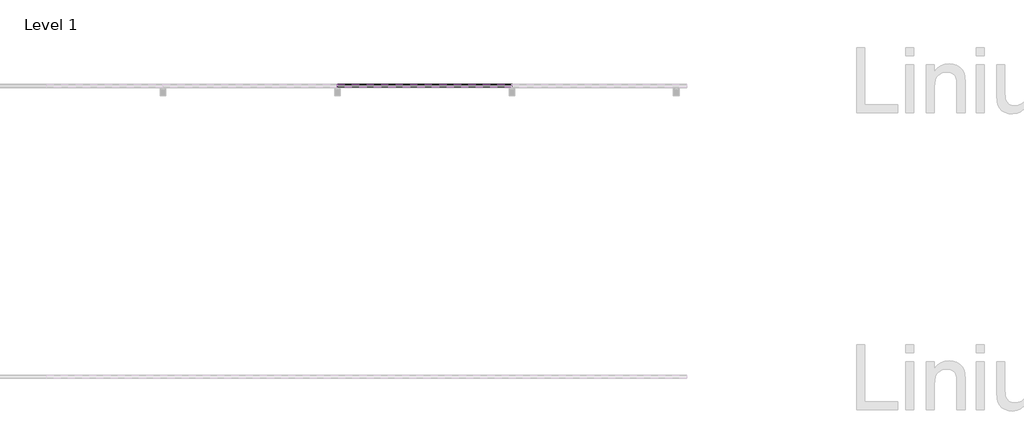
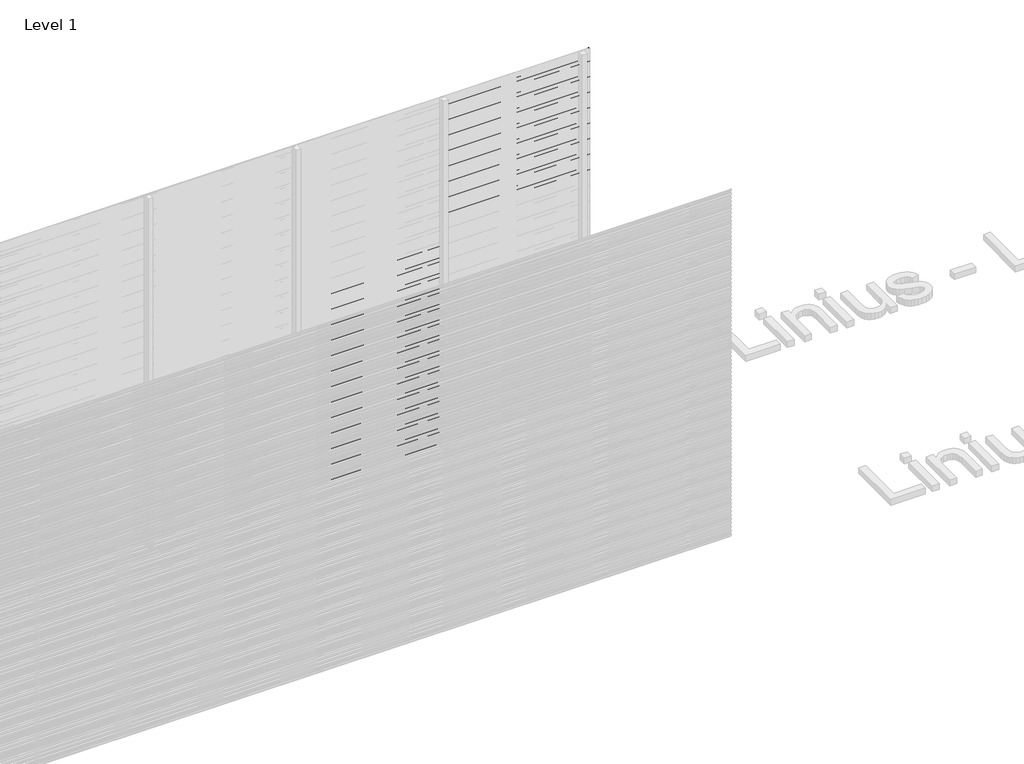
# One storey, part 60 of 507: 84 proxies.
"""IFC4 building model written with IfcOpenShell, lengths in millimetres."""

import ifcopenshell
import ifcopenshell.guid

model = None  # the IFC model being written
_history = None  # IfcOwnerHistory: only IFC2X3 demands one
_inside = {}  # id of a spatial element -> (the spatial element, [elements in it])
_under = {}  # id of a project, library or spatial element -> (it, [spatial elements below it])
_declared = {}  # id of a project -> (the project, [libraries it declares])
_typed = {}  # id of a type object -> (the type object, [elements of that type])
_made_of = {}  # id of a material, layer set ... -> (it, [elements and type objects made of it])


def new_model(schema):
    """Start an empty IFC model of exactly this schema.

    Asked for "IFC4X3", IfcOpenShell would pick the latest addendum, in which some entities
    have other attributes; the version numbers below select the first issue.
    IFC2X3 requires an IfcOwnerHistory on every rooted entity: one is made here for all.
    """
    global model, _history
    if schema == "IFC4X3":
        model = ifcopenshell.file(schema_version=(4, 3, 0, 0))
    else:
        model = ifcopenshell.file(schema=schema)
    _inside.clear()
    _under.clear()
    _declared.clear()
    _typed.clear()
    _made_of.clear()
    _history = None
    if model.schema == "IFC2X3":
        org = make("IfcOrganization", Name="unknown")
        user = make(
            "IfcPersonAndOrganization",
            ThePerson=make("IfcPerson", FamilyName="unknown"),
            TheOrganization=org,
        )
        app = make(
            "IfcApplication",
            ApplicationDeveloper=org,
            Version="unknown",
            ApplicationFullName="unknown",
            ApplicationIdentifier="unknown",
        )
        _history = make(
            "IfcOwnerHistory",
            OwningUser=user,
            OwningApplication=app,
            ChangeAction="ADDED",
            CreationDate=0,
        )
    return model


def make(cls, **values):
    """One entity of the class cls with the attributes given. An attribute that is None is left unset."""
    return model.create_entity(
        cls, **{name: value for name, value in values.items() if value is not None}
    )


def rooted(cls, **values):
    """An entity with a GlobalId (a new one), such as an element, a storey or a relation."""
    return make(cls, GlobalId=ifcopenshell.guid.new(), OwnerHistory=_history, **values)


def si_unit(unit_type, name, prefix=None):
    """IfcSIUnit, for example si_unit("LENGTHUNIT", "METRE", prefix="MILLI")."""
    return make("IfcSIUnit", UnitType=unit_type, Prefix=prefix, Name=name)


def assignment(units):
    """IfcUnitAssignment: the units of a project."""
    return None if units is None else make("IfcUnitAssignment", Units=units)


def point(xyz):
    """IfcCartesianPoint."""
    return None if xyz is None else make("IfcCartesianPoint", Coordinates=xyz)


def direction(xyz):
    """IfcDirection."""
    return None if xyz is None else make("IfcDirection", DirectionRatios=xyz)


def frame(location, z_axis=None, x_axis=None):
    """IfcAxis2Placement3D, a coordinate frame: its origin and axes. An axis left out is left unset."""
    return make(
        "IfcAxis2Placement3D",
        Location=point(location),
        Axis=direction(z_axis),
        RefDirection=direction(x_axis),
    )


def origin():
    """The frame at (0, 0, 0) with its axes left unset."""
    return frame((0.0, 0.0, 0.0))


def place(relative_to, where):
    """IfcLocalPlacement: puts the frame where relative to a parent placement (None: the world)."""
    return make(
        "IfcLocalPlacement", PlacementRelTo=relative_to, RelativePlacement=where
    )


def context(
    kind, dimensions, precision=None, world=None, true_north=None, identifier=None
):
    """IfcGeometricRepresentationContext, for example the 3D "Model" context."""
    return make(
        "IfcGeometricRepresentationContext",
        ContextIdentifier=identifier,
        ContextType=kind,
        CoordinateSpaceDimension=dimensions,
        Precision=precision,
        WorldCoordinateSystem=world,
        TrueNorth=true_north,
    )


def project(units=None, contexts=None):
    """IfcProject with its units and contexts."""
    return rooted(
        "IfcProject",
        Name="project",
        RepresentationContexts=contexts,
        UnitsInContext=assignment(units),
    )


def spatial(cls, under=None, at=None, **own):
    """A site, building, storey or space (cls), placed at a placement, below another one or the project."""
    s = rooted(cls, ObjectPlacement=at, **own)
    if under is not None:
        _under.setdefault(under.id(), (under, []))[1].append(s)
    return s


def polyline(points):
    """IfcPolyline through the points."""
    return make("IfcPolyline", Points=[point(p) for p in points])


def outline(outer, holes=None, kind="AREA"):
    """IfcArbitraryClosedProfileDef: a profile drawn as a closed curve; with holes, ...WithVoids."""
    if holes is None:
        return make("IfcArbitraryClosedProfileDef", ProfileType=kind, OuterCurve=outer)
    return make(
        "IfcArbitraryProfileDefWithVoids",
        ProfileType=kind,
        OuterCurve=outer,
        InnerCurves=holes,
    )


def extrude(swept, where, along, depth):
    """IfcExtrudedAreaSolid: the profile swept, set in the frame where, extruded along a direction by depth."""
    return make(
        "IfcExtrudedAreaSolid",
        SweptArea=swept,
        Position=where,
        ExtrudedDirection=direction(along),
        Depth=depth,
    )


def shape(context_of_items, identifier, shape_type, items):
    """IfcShapeRepresentation: the items that make up one representation, for example the "Body"."""
    return make(
        "IfcShapeRepresentation",
        ContextOfItems=context_of_items,
        RepresentationIdentifier=identifier,
        RepresentationType=shape_type,
        Items=items,
    )


def made_of(thing, what):
    """Note that an element or type object is made of a material, layer set ...; save() writes the relation."""
    if what is not None:
        _made_of.setdefault(what.id(), (what, []))[1].append(thing)
    return thing


def element(
    cls,
    number,
    at=None,
    inside=None,
    cuts=None,
    type_object=None,
    material=None,
    context=None,
    identifier="Body",
    shape_type=None,
    held_by="IfcProductDefinitionShape",
    body=None,
    shapes=None,
    **own,
):
    """One element of the class cls, such as IfcWall. Its Tag is "e" and its number.

    at: its placement. inside: the storey or other place that contains it. cuts: it is an
    opening in that element (IfcRelVoidsElement). A single representation is given by context,
    identifier, shape_type and body (its items); several are given by shapes. held_by: the class
    of the entity that holds the representations. save() writes the other relations.
    """
    e = rooted(cls, Tag="e%d" % number, ObjectPlacement=at, **own)
    if body is not None:
        shapes = [shape(context, identifier, shape_type, body)]
    if shapes is not None:
        e.Representation = make(held_by, Representations=shapes)
    if inside is not None:
        _inside.setdefault(inside.id(), (inside, []))[1].append(e)
    if cuts is not None:
        rooted(
            "IfcRelVoidsElement", RelatingBuildingElement=cuts, RelatedOpeningElement=e
        )
    if type_object is not None:
        _typed.setdefault(type_object.id(), (type_object, []))[1].append(e)
    return made_of(e, material)


def aggregate(whole, parts):
    """IfcRelAggregates: a whole, such as a stair, and the parts it consists of."""
    return rooted("IfcRelAggregates", RelatingObject=whole, RelatedObjects=parts)


def save(model, path):
    """Write the relations noted so far, then the file.

    IfcRelAggregates (storeys below a building ...), IfcRelContainedInSpatialStructure (elements
    in a storey), IfcRelDefinesByType, IfcRelAssociatesMaterial and IfcRelDeclares: one each for
    every whole, place, type object, material and project.
    """
    for whole, parts in _under.values():
        aggregate(whole, parts)
    for where, things in _inside.values():
        rooted(
            "IfcRelContainedInSpatialStructure",
            RelatedElements=things,
            RelatingStructure=where,
        )
    for kind, things in _typed.values():
        rooted("IfcRelDefinesByType", RelatedObjects=things, RelatingType=kind)
    for what, things in _made_of.values():
        rooted("IfcRelAssociatesMaterial", RelatedObjects=things, RelatingMaterial=what)
    for by, libraries in _declared.values():
        rooted("IfcRelDeclares", RelatingContext=by, RelatedDefinitions=libraries)
    model.write(path)


model = new_model("IFC4")

# Units and contexts
model_context = context("Model", 3, world=origin())
ifc_project = project(units=[si_unit("LENGTHUNIT", "METRE", prefix="MILLI")], contexts=[model_context])

# Site, building, storey
site = spatial("IfcSite", under=ifc_project)
building = spatial("IfcBuilding", under=site)
storey = spatial("IfcBuildingStorey", under=building, Name="Level 1", Elevation=0.0)

# Proxies
placement = place(None, origin())
element("IfcBuildingElementProxy", 1, Name="Wall Sweeps", at=placement, inside=storey, context=model_context, shape_type="SweptSolid", body=[
    extrude(outline(polyline([(36503.4540136, 1707.6), (36503.4540136, 1694.1), (36502.2040136, 1694.8216933), (36502.2040136, 1706.8782281), (36483.0540136, 1717.9345698), (36483.0540136, 1731.6), (36484.3040136, 1731.6), (36484.3040136, 1718.6562577), (36503.4540136, 1707.6)])), frame((48566.6208096, 0.0, 0.0), z_axis=(1.0, 0.0, 0.0), x_axis=(0.0, 1.0, 0.0)), (0.0, 0.0, 1.0), 1199.9999999),
])
element("IfcBuildingElementProxy", 2, Name="Wall Sweeps", at=placement, inside=storey, context=model_context, shape_type="SweptSolid", body=[
    extrude(outline(polyline([(36503.4540136, 1674.3), (36503.4540136, 1660.8), (36502.2040136, 1661.5216933), (36502.2040136, 1673.5782281), (36483.0540136, 1684.6345698), (36483.0540136, 1698.3), (36484.3040136, 1698.3), (36484.3040136, 1685.3562577), (36503.4540136, 1674.3)])), frame((48566.6208096, 0.0, 0.0), z_axis=(1.0, 0.0, 0.0), x_axis=(0.0, 1.0, 0.0)), (0.0, 0.0, 1.0), 1199.9999999),
])
element("IfcBuildingElementProxy", 3, Name="Wall Sweeps", at=placement, inside=storey, context=model_context, shape_type="SweptSolid", body=[
    extrude(outline(polyline([(36503.4540136, 1641.0), (36503.4540136, 1627.5), (36502.2040136, 1628.2216933), (36502.2040136, 1640.2782281), (36483.0540136, 1651.3345698), (36483.0540136, 1665.0), (36484.3040136, 1665.0), (36484.3040136, 1652.0562577), (36503.4540136, 1641.0)])), frame((48566.6208096, 0.0, 0.0), z_axis=(1.0, 0.0, 0.0), x_axis=(0.0, 1.0, 0.0)), (0.0, 0.0, 1.0), 1199.9999999),
])
element("IfcBuildingElementProxy", 4, Name="Wall Sweeps", at=placement, inside=storey, context=model_context, shape_type="SweptSolid", body=[
    extrude(outline(polyline([(36503.4540136, 1607.7), (36503.4540136, 1594.2), (36502.2040136, 1594.9216933), (36502.2040136, 1606.9782281), (36483.0540136, 1618.0345698), (36483.0540136, 1631.7), (36484.3040136, 1631.7), (36484.3040136, 1618.7562577), (36503.4540136, 1607.7)])), frame((48566.6208096, 0.0, 0.0), z_axis=(1.0, 0.0, 0.0), x_axis=(0.0, 1.0, 0.0)), (0.0, 0.0, 1.0), 1199.9999999),
])
element("IfcBuildingElementProxy", 5, Name="Wall Sweeps", at=placement, inside=storey, context=model_context, shape_type="SweptSolid", body=[
    extrude(outline(polyline([(36503.4540136, 1574.4), (36503.4540136, 1560.9), (36502.2040136, 1561.6216933), (36502.2040136, 1573.6782281), (36483.0540136, 1584.7345698), (36483.0540136, 1598.4), (36484.3040136, 1598.4), (36484.3040136, 1585.4562577), (36503.4540136, 1574.4)])), frame((48566.6208096, 0.0, 0.0), z_axis=(1.0, 0.0, 0.0), x_axis=(0.0, 1.0, 0.0)), (0.0, 0.0, 1.0), 1199.9999999),
])
element("IfcBuildingElementProxy", 6, Name="Wall Sweeps", at=placement, inside=storey, context=model_context, shape_type="SweptSolid", body=[
    extrude(outline(polyline([(36503.4540136, 1541.1), (36503.4540136, 1527.6), (36502.2040136, 1528.3216933), (36502.2040136, 1540.3782281), (36483.0540136, 1551.4345698), (36483.0540136, 1565.1), (36484.3040136, 1565.1), (36484.3040136, 1552.1562577), (36503.4540136, 1541.1)])), frame((48566.6208096, 0.0, 0.0), z_axis=(1.0, 0.0, 0.0), x_axis=(0.0, 1.0, 0.0)), (0.0, 0.0, 1.0), 1199.9999999),
])
element("IfcBuildingElementProxy", 7, Name="Wall Sweeps", at=placement, inside=storey, context=model_context, shape_type="SweptSolid", body=[
    extrude(outline(polyline([(36503.4540136, 1507.8), (36503.4540136, 1494.3), (36502.2040136, 1495.0216933), (36502.2040136, 1507.0782281), (36483.0540136, 1518.1345698), (36483.0540136, 1531.8), (36484.3040136, 1531.8), (36484.3040136, 1518.8562577), (36503.4540136, 1507.8)])), frame((48566.6208096, 0.0, 0.0), z_axis=(1.0, 0.0, 0.0), x_axis=(0.0, 1.0, 0.0)), (0.0, 0.0, 1.0), 1199.9999999),
])
element("IfcBuildingElementProxy", 8, Name="Wall Sweeps", at=placement, inside=storey, context=model_context, shape_type="SweptSolid", body=[
    extrude(outline(polyline([(36503.4540136, 1474.5), (36503.4540136, 1461.0), (36502.2040136, 1461.7216933), (36502.2040136, 1473.7782281), (36483.0540136, 1484.8345698), (36483.0540136, 1498.5), (36484.3040136, 1498.5), (36484.3040136, 1485.5562577), (36503.4540136, 1474.5)])), frame((48566.6208096, 0.0, 0.0), z_axis=(1.0, 0.0, 0.0), x_axis=(0.0, 1.0, 0.0)), (0.0, 0.0, 1.0), 1199.9999999),
])
element("IfcBuildingElementProxy", 9, Name="Wall Sweeps", at=placement, inside=storey, context=model_context, shape_type="SweptSolid", body=[
    extrude(outline(polyline([(36503.4540136, 1441.2), (36503.4540136, 1427.7), (36502.2040136, 1428.4216933), (36502.2040136, 1440.4782281), (36483.0540136, 1451.5345698), (36483.0540136, 1465.2), (36484.3040136, 1465.2), (36484.3040136, 1452.2562577), (36503.4540136, 1441.2)])), frame((48566.6208096, 0.0, 0.0), z_axis=(1.0, 0.0, 0.0), x_axis=(0.0, 1.0, 0.0)), (0.0, 0.0, 1.0), 1199.9999999),
])
element("IfcBuildingElementProxy", 10, Name="Wall Sweeps", at=placement, inside=storey, context=model_context, shape_type="SweptSolid", body=[
    extrude(outline(polyline([(36503.4540136, 1407.9), (36503.4540136, 1394.4), (36502.2040136, 1395.1216933), (36502.2040136, 1407.1782281), (36483.0540136, 1418.2345698), (36483.0540136, 1431.9), (36484.3040136, 1431.9), (36484.3040136, 1418.9562577), (36503.4540136, 1407.9)])), frame((48566.6208096, 0.0, 0.0), z_axis=(1.0, 0.0, 0.0), x_axis=(0.0, 1.0, 0.0)), (0.0, 0.0, 1.0), 1199.9999999),
])
element("IfcBuildingElementProxy", 11, Name="Wall Sweeps", at=placement, inside=storey, context=model_context, shape_type="SweptSolid", body=[
    extrude(outline(polyline([(36503.4540136, 1374.6), (36503.4540136, 1361.1), (36502.2040136, 1361.8216933), (36502.2040136, 1373.8782281), (36483.0540136, 1384.9345698), (36483.0540136, 1398.6), (36484.3040136, 1398.6), (36484.3040136, 1385.6562577), (36503.4540136, 1374.6)])), frame((48566.6208096, 0.0, 0.0), z_axis=(1.0, 0.0, 0.0), x_axis=(0.0, 1.0, 0.0)), (0.0, 0.0, 1.0), 1199.9999999),
])
element("IfcBuildingElementProxy", 12, Name="Wall Sweeps", at=placement, inside=storey, context=model_context, shape_type="SweptSolid", body=[
    extrude(outline(polyline([(36503.4540136, 1341.3), (36503.4540136, 1327.8), (36502.2040136, 1328.5216933), (36502.2040136, 1340.5782281), (36483.0540136, 1351.6345698), (36483.0540136, 1365.3), (36484.3040136, 1365.3), (36484.3040136, 1352.3562577), (36503.4540136, 1341.3)])), frame((48566.6208096, 0.0, 0.0), z_axis=(1.0, 0.0, 0.0), x_axis=(0.0, 1.0, 0.0)), (0.0, 0.0, 1.0), 1199.9999999),
])
element("IfcBuildingElementProxy", 13, Name="Wall Sweeps", at=placement, inside=storey, context=model_context, shape_type="SweptSolid", body=[
    extrude(outline(polyline([(36503.4540136, 1308.0), (36503.4540136, 1294.5), (36502.2040136, 1295.2216933), (36502.2040136, 1307.2782281), (36483.0540136, 1318.3345698), (36483.0540136, 1332.0), (36484.3040136, 1332.0), (36484.3040136, 1319.0562577), (36503.4540136, 1308.0)])), frame((48566.6208096, 0.0, 0.0), z_axis=(1.0, 0.0, 0.0), x_axis=(0.0, 1.0, 0.0)), (0.0, 0.0, 1.0), 1199.9999999),
])
element("IfcBuildingElementProxy", 14, Name="Wall Sweeps", at=placement, inside=storey, context=model_context, shape_type="SweptSolid", body=[
    extrude(outline(polyline([(36503.4540136, 1274.7), (36503.4540136, 1261.2), (36502.2040136, 1261.9216933), (36502.2040136, 1273.9782281), (36483.0540136, 1285.0345698), (36483.0540136, 1298.7), (36484.3040136, 1298.7), (36484.3040136, 1285.7562577), (36503.4540136, 1274.7)])), frame((48566.6208096, 0.0, 0.0), z_axis=(1.0, 0.0, 0.0), x_axis=(0.0, 1.0, 0.0)), (0.0, 0.0, 1.0), 1199.9999999),
])
element("IfcBuildingElementProxy", 15, Name="Wall Sweeps", at=placement, inside=storey, context=model_context, shape_type="SweptSolid", body=[
    extrude(outline(polyline([(36503.4540136, 1241.4), (36503.4540136, 1227.9), (36502.2040136, 1228.6216933), (36502.2040136, 1240.6782281), (36483.0540136, 1251.7345698), (36483.0540136, 1265.4), (36484.3040136, 1265.4), (36484.3040136, 1252.4562577), (36503.4540136, 1241.4)])), frame((48566.6208096, 0.0, 0.0), z_axis=(1.0, 0.0, 0.0), x_axis=(0.0, 1.0, 0.0)), (0.0, 0.0, 1.0), 1199.9999999),
])
element("IfcBuildingElementProxy", 16, Name="Wall Sweeps", at=placement, inside=storey, context=model_context, shape_type="SweptSolid", body=[
    extrude(outline(polyline([(36503.4540136, 1208.1), (36503.4540136, 1194.6), (36502.2040136, 1195.3216933), (36502.2040136, 1207.3782281), (36483.0540136, 1218.4345698), (36483.0540136, 1232.1), (36484.3040136, 1232.1), (36484.3040136, 1219.1562577), (36503.4540136, 1208.1)])), frame((48566.6208096, 0.0, 0.0), z_axis=(1.0, 0.0, 0.0), x_axis=(0.0, 1.0, 0.0)), (0.0, 0.0, 1.0), 1199.9999999),
])
element("IfcBuildingElementProxy", 17, Name="Wall Sweeps", at=placement, inside=storey, context=model_context, shape_type="SweptSolid", body=[
    extrude(outline(polyline([(36503.4540136, 1174.8), (36503.4540136, 1161.3), (36502.2040136, 1162.0216933), (36502.2040136, 1174.0782281), (36483.0540136, 1185.1345698), (36483.0540136, 1198.8), (36484.3040136, 1198.8), (36484.3040136, 1185.8562577), (36503.4540136, 1174.8)])), frame((48566.6208096, 0.0, 0.0), z_axis=(1.0, 0.0, 0.0), x_axis=(0.0, 1.0, 0.0)), (0.0, 0.0, 1.0), 1199.9999999),
])
element("IfcBuildingElementProxy", 18, Name="Wall Sweeps", at=placement, inside=storey, context=model_context, shape_type="SweptSolid", body=[
    extrude(outline(polyline([(36503.4540136, 1141.5), (36503.4540136, 1128.0), (36502.2040136, 1128.7216933), (36502.2040136, 1140.7782281), (36483.0540136, 1151.8345698), (36483.0540136, 1165.5), (36484.3040136, 1165.5), (36484.3040136, 1152.5562577), (36503.4540136, 1141.5)])), frame((48566.6208096, 0.0, 0.0), z_axis=(1.0, 0.0, 0.0), x_axis=(0.0, 1.0, 0.0)), (0.0, 0.0, 1.0), 1199.9999999),
])
element("IfcBuildingElementProxy", 19, Name="Wall Sweeps", at=placement, inside=storey, context=model_context, shape_type="SweptSolid", body=[
    extrude(outline(polyline([(36503.4540136, 1108.2), (36503.4540136, 1094.7), (36502.2040136, 1095.4216933), (36502.2040136, 1107.4782281), (36483.0540136, 1118.5345698), (36483.0540136, 1132.2), (36484.3040136, 1132.2), (36484.3040136, 1119.2562577), (36503.4540136, 1108.2)])), frame((48566.6208096, 0.0, 0.0), z_axis=(1.0, 0.0, 0.0), x_axis=(0.0, 1.0, 0.0)), (0.0, 0.0, 1.0), 1199.9999999),
])
element("IfcBuildingElementProxy", 20, Name="Wall Sweeps", at=placement, inside=storey, context=model_context, shape_type="SweptSolid", body=[
    extrude(outline(polyline([(36503.4540136, 1074.9), (36503.4540136, 1061.4), (36502.2040136, 1062.1216933), (36502.2040136, 1074.1782281), (36483.0540136, 1085.2345698), (36483.0540136, 1098.9), (36484.3040136, 1098.9), (36484.3040136, 1085.9562577), (36503.4540136, 1074.9)])), frame((48566.6208096, 0.0, 0.0), z_axis=(1.0, 0.0, 0.0), x_axis=(0.0, 1.0, 0.0)), (0.0, 0.0, 1.0), 1199.9999999),
])
element("IfcBuildingElementProxy", 21, Name="Wall Sweeps", at=placement, inside=storey, context=model_context, shape_type="SweptSolid", body=[
    extrude(outline(polyline([(36503.4540136, 1041.6), (36503.4540136, 1028.1), (36502.2040136, 1028.8216933), (36502.2040136, 1040.8782281), (36483.0540136, 1051.9345698), (36483.0540136, 1065.6), (36484.3040136, 1065.6), (36484.3040136, 1052.6562577), (36503.4540136, 1041.6)])), frame((48566.6208096, 0.0, 0.0), z_axis=(1.0, 0.0, 0.0), x_axis=(0.0, 1.0, 0.0)), (0.0, 0.0, 1.0), 1199.9999999),
])
element("IfcBuildingElementProxy", 22, Name="Wall Sweeps", at=placement, inside=storey, context=model_context, shape_type="SweptSolid", body=[
    extrude(outline(polyline([(36503.4540136, 1008.3), (36503.4540136, 994.8), (36502.2040136, 995.5216933), (36502.2040136, 1007.5782281), (36483.0540136, 1018.6345698), (36483.0540136, 1032.3), (36484.3040136, 1032.3), (36484.3040136, 1019.3562577), (36503.4540136, 1008.3)])), frame((48566.6208096, 0.0, 0.0), z_axis=(1.0, 0.0, 0.0), x_axis=(0.0, 1.0, 0.0)), (0.0, 0.0, 1.0), 1199.9999999),
])
element("IfcBuildingElementProxy", 23, Name="Wall Sweeps", at=placement, inside=storey, context=model_context, shape_type="SweptSolid", body=[
    extrude(outline(polyline([(36503.4540136, 975.0), (36503.4540136, 961.5), (36502.2040136, 962.2216933), (36502.2040136, 974.2782281), (36483.0540136, 985.3345698), (36483.0540136, 999.0), (36484.3040136, 999.0), (36484.3040136, 986.0562577), (36503.4540136, 975.0)])), frame((48566.6208096, 0.0, 0.0), z_axis=(1.0, 0.0, 0.0), x_axis=(0.0, 1.0, 0.0)), (0.0, 0.0, 1.0), 1199.9999999),
])
element("IfcBuildingElementProxy", 24, Name="Wall Sweeps", at=placement, inside=storey, context=model_context, shape_type="SweptSolid", body=[
    extrude(outline(polyline([(36503.4540136, 941.7), (36503.4540136, 928.2), (36502.2040136, 928.9216933), (36502.2040136, 940.9782281), (36483.0540136, 952.0345698), (36483.0540136, 965.7), (36484.3040136, 965.7), (36484.3040136, 952.7562577), (36503.4540136, 941.7)])), frame((48566.6208096, 0.0, 0.0), z_axis=(1.0, 0.0, 0.0), x_axis=(0.0, 1.0, 0.0)), (0.0, 0.0, 1.0), 1199.9999999),
])
element("IfcBuildingElementProxy", 25, Name="Wall Sweeps", at=placement, inside=storey, context=model_context, shape_type="SweptSolid", body=[
    extrude(outline(polyline([(36503.4540136, 908.4), (36503.4540136, 894.9), (36502.2040136, 895.6216933), (36502.2040136, 907.6782281), (36483.0540136, 918.7345698), (36483.0540136, 932.4), (36484.3040136, 932.4), (36484.3040136, 919.4562577), (36503.4540136, 908.4)])), frame((48566.6208096, 0.0, 0.0), z_axis=(1.0, 0.0, 0.0), x_axis=(0.0, 1.0, 0.0)), (0.0, 0.0, 1.0), 1199.9999999),
])
element("IfcBuildingElementProxy", 26, Name="Wall Sweeps", at=placement, inside=storey, context=model_context, shape_type="SweptSolid", body=[
    extrude(outline(polyline([(36503.4540136, 875.1), (36503.4540136, 861.6), (36502.2040136, 862.3216933), (36502.2040136, 874.3782281), (36483.0540136, 885.4345698), (36483.0540136, 899.1), (36484.3040136, 899.1), (36484.3040136, 886.1562577), (36503.4540136, 875.1)])), frame((48566.6208096, 0.0, 0.0), z_axis=(1.0, 0.0, 0.0), x_axis=(0.0, 1.0, 0.0)), (0.0, 0.0, 1.0), 1199.9999999),
])
element("IfcBuildingElementProxy", 27, Name="Wall Sweeps", at=placement, inside=storey, context=model_context, shape_type="SweptSolid", body=[
    extrude(outline(polyline([(36503.4540136, 841.8), (36503.4540136, 828.3), (36502.2040136, 829.0216933), (36502.2040136, 841.0782281), (36483.0540136, 852.1345698), (36483.0540136, 865.8), (36484.3040136, 865.8), (36484.3040136, 852.8562577), (36503.4540136, 841.8)])), frame((48566.6208096, 0.0, 0.0), z_axis=(1.0, 0.0, 0.0), x_axis=(0.0, 1.0, 0.0)), (0.0, 0.0, 1.0), 1199.9999999),
])
element("IfcBuildingElementProxy", 28, Name="Wall Sweeps", at=placement, inside=storey, context=model_context, shape_type="SweptSolid", body=[
    extrude(outline(polyline([(36503.4540136, 808.5), (36503.4540136, 795.0), (36502.2040136, 795.7216933), (36502.2040136, 807.7782281), (36483.0540136, 818.8345698), (36483.0540136, 832.5), (36484.3040136, 832.5), (36484.3040136, 819.5562577), (36503.4540136, 808.5)])), frame((48566.6208096, 0.0, 0.0), z_axis=(1.0, 0.0, 0.0), x_axis=(0.0, 1.0, 0.0)), (0.0, 0.0, 1.0), 1199.9999999),
])
element("IfcBuildingElementProxy", 29, Name="Wall Sweeps", at=placement, inside=storey, context=model_context, shape_type="SweptSolid", body=[
    extrude(outline(polyline([(36503.4540136, 775.2), (36503.4540136, 761.7), (36502.2040136, 762.4216933), (36502.2040136, 774.4782281), (36483.0540136, 785.5345698), (36483.0540136, 799.2), (36484.3040136, 799.2), (36484.3040136, 786.2562577), (36503.4540136, 775.2)])), frame((48566.6208096, 0.0, 0.0), z_axis=(1.0, 0.0, 0.0), x_axis=(0.0, 1.0, 0.0)), (0.0, 0.0, 1.0), 1199.9999999),
])
element("IfcBuildingElementProxy", 30, Name="Wall Sweeps", at=placement, inside=storey, context=model_context, shape_type="SweptSolid", body=[
    extrude(outline(polyline([(36503.4540136, 741.9), (36503.4540136, 728.4), (36502.2040136, 729.1216933), (36502.2040136, 741.1782281), (36483.0540136, 752.2345698), (36483.0540136, 765.9), (36484.3040136, 765.9), (36484.3040136, 752.9562577), (36503.4540136, 741.9)])), frame((48566.6208096, 0.0, 0.0), z_axis=(1.0, 0.0, 0.0), x_axis=(0.0, 1.0, 0.0)), (0.0, 0.0, 1.0), 1199.9999999),
])
element("IfcBuildingElementProxy", 31, Name="Wall Sweeps", at=placement, inside=storey, context=model_context, shape_type="SweptSolid", body=[
    extrude(outline(polyline([(36503.4540136, 708.6), (36503.4540136, 695.1), (36502.2040136, 695.8216933), (36502.2040136, 707.8782281), (36483.0540136, 718.9345698), (36483.0540136, 732.6), (36484.3040136, 732.6), (36484.3040136, 719.6562577), (36503.4540136, 708.6)])), frame((48566.6208096, 0.0, 0.0), z_axis=(1.0, 0.0, 0.0), x_axis=(0.0, 1.0, 0.0)), (0.0, 0.0, 1.0), 1199.9999999),
])
element("IfcBuildingElementProxy", 32, Name="Wall Sweeps", at=placement, inside=storey, context=model_context, shape_type="SweptSolid", body=[
    extrude(outline(polyline([(36503.4540136, 675.3), (36503.4540136, 661.8), (36502.2040136, 662.5216933), (36502.2040136, 674.5782281), (36483.0540136, 685.6345698), (36483.0540136, 699.3), (36484.3040136, 699.3), (36484.3040136, 686.3562577), (36503.4540136, 675.3)])), frame((48566.6208096, 0.0, 0.0), z_axis=(1.0, 0.0, 0.0), x_axis=(0.0, 1.0, 0.0)), (0.0, 0.0, 1.0), 1199.9999999),
])
element("IfcBuildingElementProxy", 33, Name="Wall Sweeps", at=placement, inside=storey, context=model_context, shape_type="SweptSolid", body=[
    extrude(outline(polyline([(36503.4540136, 642.0), (36503.4540136, 628.5), (36502.2040136, 629.2216933), (36502.2040136, 641.2782281), (36483.0540136, 652.3345698), (36483.0540136, 666.0), (36484.3040136, 666.0), (36484.3040136, 653.0562577), (36503.4540136, 642.0)])), frame((48566.6208096, 0.0, 0.0), z_axis=(1.0, 0.0, 0.0), x_axis=(0.0, 1.0, 0.0)), (0.0, 0.0, 1.0), 1199.9999999),
])
element("IfcBuildingElementProxy", 34, Name="Wall Sweeps", at=placement, inside=storey, context=model_context, shape_type="SweptSolid", body=[
    extrude(outline(polyline([(36503.4540136, 608.7), (36503.4540136, 595.2), (36502.2040136, 595.9216933), (36502.2040136, 607.9782281), (36483.0540136, 619.0345698), (36483.0540136, 632.7), (36484.3040136, 632.7), (36484.3040136, 619.7562577), (36503.4540136, 608.7)])), frame((48566.6208096, 0.0, 0.0), z_axis=(1.0, 0.0, 0.0), x_axis=(0.0, 1.0, 0.0)), (0.0, 0.0, 1.0), 1199.9999999),
])
element("IfcBuildingElementProxy", 35, Name="Wall Sweeps", at=placement, inside=storey, context=model_context, shape_type="SweptSolid", body=[
    extrude(outline(polyline([(36503.4540136, 575.4), (36503.4540136, 561.9), (36502.2040136, 562.6216933), (36502.2040136, 574.6782281), (36483.0540136, 585.7345698), (36483.0540136, 599.4), (36484.3040136, 599.4), (36484.3040136, 586.4562577), (36503.4540136, 575.4)])), frame((48566.6208096, 0.0, 0.0), z_axis=(1.0, 0.0, 0.0), x_axis=(0.0, 1.0, 0.0)), (0.0, 0.0, 1.0), 1199.9999999),
])
element("IfcBuildingElementProxy", 36, Name="Wall Sweeps", at=placement, inside=storey, context=model_context, shape_type="SweptSolid", body=[
    extrude(outline(polyline([(36503.4540136, 542.1), (36503.4540136, 528.6), (36502.2040136, 529.3216933), (36502.2040136, 541.3782281), (36483.0540136, 552.4345698), (36483.0540136, 566.1), (36484.3040136, 566.1), (36484.3040136, 553.1562577), (36503.4540136, 542.1)])), frame((48566.6208096, 0.0, 0.0), z_axis=(1.0, 0.0, 0.0), x_axis=(0.0, 1.0, 0.0)), (0.0, 0.0, 1.0), 1199.9999999),
])
element("IfcBuildingElementProxy", 37, Name="Wall Sweeps", at=placement, inside=storey, context=model_context, shape_type="SweptSolid", body=[
    extrude(outline(polyline([(36503.4540136, 508.8), (36503.4540136, 495.3), (36502.2040136, 496.0216933), (36502.2040136, 508.0782281), (36483.0540136, 519.1345698), (36483.0540136, 532.8), (36484.3040136, 532.8), (36484.3040136, 519.8562577), (36503.4540136, 508.8)])), frame((48566.6208096, 0.0, 0.0), z_axis=(1.0, 0.0, 0.0), x_axis=(0.0, 1.0, 0.0)), (0.0, 0.0, 1.0), 1199.9999999),
])
element("IfcBuildingElementProxy", 38, Name="Wall Sweeps", at=placement, inside=storey, context=model_context, shape_type="SweptSolid", body=[
    extrude(outline(polyline([(36503.4540136, 475.5), (36503.4540136, 462.0), (36502.2040136, 462.7216933), (36502.2040136, 474.7782281), (36483.0540136, 485.8345698), (36483.0540136, 499.5), (36484.3040136, 499.5), (36484.3040136, 486.5562577), (36503.4540136, 475.5)])), frame((48566.6208096, 0.0, 0.0), z_axis=(1.0, 0.0, 0.0), x_axis=(0.0, 1.0, 0.0)), (0.0, 0.0, 1.0), 1199.9999999),
])
element("IfcBuildingElementProxy", 39, Name="Wall Sweeps", at=placement, inside=storey, context=model_context, shape_type="SweptSolid", body=[
    extrude(outline(polyline([(36503.4540136, 442.2), (36503.4540136, 428.7), (36502.2040136, 429.4216933), (36502.2040136, 441.4782281), (36483.0540136, 452.5345698), (36483.0540136, 466.2), (36484.3040136, 466.2), (36484.3040136, 453.2562577), (36503.4540136, 442.2)])), frame((48566.6208096, 0.0, 0.0), z_axis=(1.0, 0.0, 0.0), x_axis=(0.0, 1.0, 0.0)), (0.0, 0.0, 1.0), 1199.9999999),
])
element("IfcBuildingElementProxy", 40, Name="Wall Sweeps", at=placement, inside=storey, context=model_context, shape_type="SweptSolid", body=[
    extrude(outline(polyline([(36503.4540136, 408.9), (36503.4540136, 395.4), (36502.2040136, 396.1216933), (36502.2040136, 408.1782281), (36483.0540136, 419.2345698), (36483.0540136, 432.9), (36484.3040136, 432.9), (36484.3040136, 419.9562577), (36503.4540136, 408.9)])), frame((48566.6208096, 0.0, 0.0), z_axis=(1.0, 0.0, 0.0), x_axis=(0.0, 1.0, 0.0)), (0.0, 0.0, 1.0), 1199.9999999),
])
element("IfcBuildingElementProxy", 41, Name="Wall Sweeps", at=placement, inside=storey, context=model_context, shape_type="SweptSolid", body=[
    extrude(outline(polyline([(36503.4540136, 375.6), (36503.4540136, 362.1), (36502.2040136, 362.8216933), (36502.2040136, 374.8782281), (36483.0540136, 385.9345698), (36483.0540136, 399.6), (36484.3040136, 399.6), (36484.3040136, 386.6562577), (36503.4540136, 375.6)])), frame((48566.6208096, 0.0, 0.0), z_axis=(1.0, 0.0, 0.0), x_axis=(0.0, 1.0, 0.0)), (0.0, 0.0, 1.0), 1199.9999999),
])
element("IfcBuildingElementProxy", 42, Name="Wall Sweeps", at=placement, inside=storey, context=model_context, shape_type="SweptSolid", body=[
    extrude(outline(polyline([(36503.4540136, 342.3), (36503.4540136, 328.8), (36502.2040136, 329.5216933), (36502.2040136, 341.5782281), (36483.0540136, 352.6345698), (36483.0540136, 366.3), (36484.3040136, 366.3), (36484.3040136, 353.3562577), (36503.4540136, 342.3)])), frame((48566.6208096, 0.0, 0.0), z_axis=(1.0, 0.0, 0.0), x_axis=(0.0, 1.0, 0.0)), (0.0, 0.0, 1.0), 1199.9999999),
])
element("IfcBuildingElementProxy", 43, Name="Wall Sweeps", at=placement, inside=storey, context=model_context, shape_type="SweptSolid", body=[
    extrude(outline(polyline([(36503.4540136, 309.0), (36503.4540136, 295.5), (36502.2040136, 296.2216933), (36502.2040136, 308.2782281), (36483.0540136, 319.3345698), (36483.0540136, 333.0), (36484.3040136, 333.0), (36484.3040136, 320.0562577), (36503.4540136, 309.0)])), frame((48566.6208096, 0.0, 0.0), z_axis=(1.0, 0.0, 0.0), x_axis=(0.0, 1.0, 0.0)), (0.0, 0.0, 1.0), 1199.9999999),
])
element("IfcBuildingElementProxy", 44, Name="Wall Sweeps", at=placement, inside=storey, context=model_context, shape_type="SweptSolid", body=[
    extrude(outline(polyline([(36503.4540136, 275.7), (36503.4540136, 262.2), (36502.2040136, 262.9216933), (36502.2040136, 274.9782281), (36483.0540136, 286.0345698), (36483.0540136, 299.7), (36484.3040136, 299.7), (36484.3040136, 286.7562577), (36503.4540136, 275.7)])), frame((48566.6208096, 0.0, 0.0), z_axis=(1.0, 0.0, 0.0), x_axis=(0.0, 1.0, 0.0)), (0.0, 0.0, 1.0), 1199.9999999),
])
element("IfcBuildingElementProxy", 45, Name="Wall Sweeps", at=placement, inside=storey, context=model_context, shape_type="SweptSolid", body=[
    extrude(outline(polyline([(36503.4540136, 242.4), (36503.4540136, 228.9), (36502.2040136, 229.6216933), (36502.2040136, 241.6782281), (36483.0540136, 252.7345698), (36483.0540136, 266.4), (36484.3040136, 266.4), (36484.3040136, 253.4562577), (36503.4540136, 242.4)])), frame((48566.6208096, 0.0, 0.0), z_axis=(1.0, 0.0, 0.0), x_axis=(0.0, 1.0, 0.0)), (0.0, 0.0, 1.0), 1199.9999999),
])
element("IfcBuildingElementProxy", 46, Name="Wall Sweeps", at=placement, inside=storey, context=model_context, shape_type="SweptSolid", body=[
    extrude(outline(polyline([(36503.4540136, 209.1), (36503.4540136, 195.6), (36502.2040136, 196.3216933), (36502.2040136, 208.3782281), (36483.0540136, 219.4345698), (36483.0540136, 233.1), (36484.3040136, 233.1), (36484.3040136, 220.1562577), (36503.4540136, 209.1)])), frame((48566.6208096, 0.0, 0.0), z_axis=(1.0, 0.0, 0.0), x_axis=(0.0, 1.0, 0.0)), (0.0, 0.0, 1.0), 1199.9999999),
])
element("IfcBuildingElementProxy", 47, Name="Wall Sweeps", at=placement, inside=storey, context=model_context, shape_type="SweptSolid", body=[
    extrude(outline(polyline([(36503.4540136, 175.8), (36503.4540136, 162.3), (36502.2040136, 163.0216933), (36502.2040136, 175.0782281), (36483.0540136, 186.1345698), (36483.0540136, 199.8), (36484.3040136, 199.8), (36484.3040136, 186.8562577), (36503.4540136, 175.8)])), frame((48566.6208096, 0.0, 0.0), z_axis=(1.0, 0.0, 0.0), x_axis=(0.0, 1.0, 0.0)), (0.0, 0.0, 1.0), 1199.9999999),
])
element("IfcBuildingElementProxy", 48, Name="Wall Sweeps", at=placement, inside=storey, context=model_context, shape_type="SweptSolid", body=[
    extrude(outline(polyline([(36503.4540136, 142.5), (36503.4540136, 129.0), (36502.2040136, 129.7216933), (36502.2040136, 141.7782281), (36483.0540136, 152.8345698), (36483.0540136, 166.5), (36484.3040136, 166.5), (36484.3040136, 153.5562577), (36503.4540136, 142.5)])), frame((48566.6208096, 0.0, 0.0), z_axis=(1.0, 0.0, 0.0), x_axis=(0.0, 1.0, 0.0)), (0.0, 0.0, 1.0), 1199.9999999),
])
element("IfcBuildingElementProxy", 49, Name="Wall Sweeps", at=placement, inside=storey, context=model_context, shape_type="SweptSolid", body=[
    extrude(outline(polyline([(36503.4540136, 109.2), (36503.4540136, 95.7), (36502.2040136, 96.4216933), (36502.2040136, 108.4782281), (36483.0540136, 119.5345698), (36483.0540136, 133.2), (36484.3040136, 133.2), (36484.3040136, 120.2562577), (36503.4540136, 109.2)])), frame((48566.6208096, 0.0, 0.0), z_axis=(1.0, 0.0, 0.0), x_axis=(0.0, 1.0, 0.0)), (0.0, 0.0, 1.0), 1199.9999999),
])
element("IfcBuildingElementProxy", 50, Name="Wall Sweeps", at=placement, inside=storey, context=model_context, shape_type="SweptSolid", body=[
    extrude(outline(polyline([(36503.4540136, 75.9), (36503.4540136, 62.4), (36502.2040136, 63.1216933), (36502.2040136, 75.1782281), (36483.0540136, 86.2345698), (36483.0540136, 99.9), (36484.3040136, 99.9), (36484.3040136, 86.9562577), (36503.4540136, 75.9)])), frame((48566.6208096, 0.0, 0.0), z_axis=(1.0, 0.0, 0.0), x_axis=(0.0, 1.0, 0.0)), (0.0, 0.0, 1.0), 1199.9999999),
])
element("IfcBuildingElementProxy", 51, Name="Wall Sweeps", at=placement, inside=storey, context=model_context, shape_type="SweptSolid", body=[
    extrude(outline(polyline([(36503.4540136, 42.6), (36503.4540136, 29.1), (36502.2040136, 29.8216933), (36502.2040136, 41.8782281), (36483.0540136, 52.9345698), (36483.0540136, 66.6), (36484.3040136, 66.6), (36484.3040136, 53.6562577), (36503.4540136, 42.6)])), frame((48566.6208096, 0.0, 0.0), z_axis=(1.0, 0.0, 0.0), x_axis=(0.0, 1.0, 0.0)), (0.0, 0.0, 1.0), 1199.9999999),
])
element("IfcBuildingElementProxy", 52, Name="Wall Sweeps", at=placement, inside=storey, context=model_context, shape_type="SweptSolid", body=[
    extrude(outline(polyline([(36503.4540136, 9.3), (36503.4540136, -4.2), (36502.2040136, -3.4783067), (36502.2040136, 8.5782281), (36483.0540136, 19.6345698), (36483.0540136, 33.3), (36484.3040136, 33.3), (36484.3040136, 20.3562577), (36503.4540136, 9.3)])), frame((48566.6208096, 0.0, 0.0), z_axis=(1.0, 0.0, 0.0), x_axis=(0.0, 1.0, 0.0)), (0.0, 0.0, 1.0), 1199.9999999),
])
element("IfcBuildingElementProxy", 53, Name="Wall Sweeps", at=placement, inside=storey, context=model_context, shape_type="SweptSolid", body=[
    extrude(outline(polyline([(36503.4540136, 2973.0), (36503.4540136, 2959.5), (36502.2040136, 2960.2216933), (36502.2040136, 2972.2782281), (36483.0540136, 2983.3345698), (36483.0540136, 2997.0), (36484.3040136, 2997.0), (36484.3040136, 2984.0562577), (36503.4540136, 2973.0)])), frame((49766.6208095, 0.0, 0.0), z_axis=(1.0, 0.0, 0.0), x_axis=(0.0, 1.0, 0.0)), (0.0, 0.0, 1.0), 1200.0000002),
])
element("IfcBuildingElementProxy", 54, Name="Wall Sweeps", at=placement, inside=storey, context=model_context, shape_type="SweptSolid", body=[
    extrude(outline(polyline([(36503.4540136, 2939.7), (36503.4540136, 2926.2), (36502.2040136, 2926.9216933), (36502.2040136, 2938.9782281), (36483.0540136, 2950.0345698), (36483.0540136, 2963.7), (36484.3040136, 2963.7), (36484.3040136, 2950.7562577), (36503.4540136, 2939.7)])), frame((49766.6208095, 0.0, 0.0), z_axis=(1.0, 0.0, 0.0), x_axis=(0.0, 1.0, 0.0)), (0.0, 0.0, 1.0), 1200.0000002),
])
element("IfcBuildingElementProxy", 55, Name="Wall Sweeps", at=placement, inside=storey, context=model_context, shape_type="SweptSolid", body=[
    extrude(outline(polyline([(36503.4540136, 2906.4), (36503.4540136, 2892.9), (36502.2040136, 2893.6216933), (36502.2040136, 2905.6782281), (36483.0540136, 2916.7345698), (36483.0540136, 2930.4), (36484.3040136, 2930.4), (36484.3040136, 2917.4562577), (36503.4540136, 2906.4)])), frame((49766.6208095, 0.0, 0.0), z_axis=(1.0, 0.0, 0.0), x_axis=(0.0, 1.0, 0.0)), (0.0, 0.0, 1.0), 1200.0000002),
])
element("IfcBuildingElementProxy", 56, Name="Wall Sweeps", at=placement, inside=storey, context=model_context, shape_type="SweptSolid", body=[
    extrude(outline(polyline([(36503.4540136, 2873.1), (36503.4540136, 2859.6), (36502.2040136, 2860.3216933), (36502.2040136, 2872.3782281), (36483.0540136, 2883.4345698), (36483.0540136, 2897.1), (36484.3040136, 2897.1), (36484.3040136, 2884.1562577), (36503.4540136, 2873.1)])), frame((49766.6208095, 0.0, 0.0), z_axis=(1.0, 0.0, 0.0), x_axis=(0.0, 1.0, 0.0)), (0.0, 0.0, 1.0), 1200.0000002),
])
element("IfcBuildingElementProxy", 57, Name="Wall Sweeps", at=placement, inside=storey, context=model_context, shape_type="SweptSolid", body=[
    extrude(outline(polyline([(36503.4540136, 2839.8), (36503.4540136, 2826.3), (36502.2040136, 2827.0216933), (36502.2040136, 2839.0782281), (36483.0540136, 2850.1345698), (36483.0540136, 2863.8), (36484.3040136, 2863.8), (36484.3040136, 2850.8562577), (36503.4540136, 2839.8)])), frame((49766.6208095, 0.0, 0.0), z_axis=(1.0, 0.0, 0.0), x_axis=(0.0, 1.0, 0.0)), (0.0, 0.0, 1.0), 1200.0000002),
])
element("IfcBuildingElementProxy", 58, Name="Wall Sweeps", at=placement, inside=storey, context=model_context, shape_type="SweptSolid", body=[
    extrude(outline(polyline([(36503.4540136, 2806.5), (36503.4540136, 2793.0), (36502.2040136, 2793.7216933), (36502.2040136, 2805.7782281), (36483.0540136, 2816.8345698), (36483.0540136, 2830.5), (36484.3040136, 2830.5), (36484.3040136, 2817.5562577), (36503.4540136, 2806.5)])), frame((49766.6208095, 0.0, 0.0), z_axis=(1.0, 0.0, 0.0), x_axis=(0.0, 1.0, 0.0)), (0.0, 0.0, 1.0), 1200.0000002),
])
element("IfcBuildingElementProxy", 59, Name="Wall Sweeps", at=placement, inside=storey, context=model_context, shape_type="SweptSolid", body=[
    extrude(outline(polyline([(36503.4540136, 2773.2), (36503.4540136, 2759.7), (36502.2040136, 2760.4216933), (36502.2040136, 2772.4782281), (36483.0540136, 2783.5345698), (36483.0540136, 2797.2), (36484.3040136, 2797.2), (36484.3040136, 2784.2562577), (36503.4540136, 2773.2)])), frame((49766.6208095, 0.0, 0.0), z_axis=(1.0, 0.0, 0.0), x_axis=(0.0, 1.0, 0.0)), (0.0, 0.0, 1.0), 1200.0000002),
])
element("IfcBuildingElementProxy", 60, Name="Wall Sweeps", at=placement, inside=storey, context=model_context, shape_type="SweptSolid", body=[
    extrude(outline(polyline([(36503.4540136, 2739.9), (36503.4540136, 2726.4), (36502.2040136, 2727.1216933), (36502.2040136, 2739.1782281), (36483.0540136, 2750.2345698), (36483.0540136, 2763.9), (36484.3040136, 2763.9), (36484.3040136, 2750.9562577), (36503.4540136, 2739.9)])), frame((49766.6208095, 0.0, 0.0), z_axis=(1.0, 0.0, 0.0), x_axis=(0.0, 1.0, 0.0)), (0.0, 0.0, 1.0), 1200.0000002),
])
element("IfcBuildingElementProxy", 61, Name="Wall Sweeps", at=placement, inside=storey, context=model_context, shape_type="SweptSolid", body=[
    extrude(outline(polyline([(36503.4540136, 2706.6), (36503.4540136, 2693.1), (36502.2040136, 2693.8216933), (36502.2040136, 2705.8782281), (36483.0540136, 2716.9345698), (36483.0540136, 2730.6), (36484.3040136, 2730.6), (36484.3040136, 2717.6562577), (36503.4540136, 2706.6)])), frame((49766.6208095, 0.0, 0.0), z_axis=(1.0, 0.0, 0.0), x_axis=(0.0, 1.0, 0.0)), (0.0, 0.0, 1.0), 1200.0000002),
])
element("IfcBuildingElementProxy", 62, Name="Wall Sweeps", at=placement, inside=storey, context=model_context, shape_type="SweptSolid", body=[
    extrude(outline(polyline([(36503.4540136, 2673.3), (36503.4540136, 2659.8), (36502.2040136, 2660.5216933), (36502.2040136, 2672.5782281), (36483.0540136, 2683.6345698), (36483.0540136, 2697.3), (36484.3040136, 2697.3), (36484.3040136, 2684.3562577), (36503.4540136, 2673.3)])), frame((49766.6208095, 0.0, 0.0), z_axis=(1.0, 0.0, 0.0), x_axis=(0.0, 1.0, 0.0)), (0.0, 0.0, 1.0), 1200.0000002),
])
element("IfcBuildingElementProxy", 63, Name="Wall Sweeps", at=placement, inside=storey, context=model_context, shape_type="SweptSolid", body=[
    extrude(outline(polyline([(36503.4540136, 2640.0), (36503.4540136, 2626.5), (36502.2040136, 2627.2216933), (36502.2040136, 2639.2782281), (36483.0540136, 2650.3345698), (36483.0540136, 2664.0), (36484.3040136, 2664.0), (36484.3040136, 2651.0562577), (36503.4540136, 2640.0)])), frame((49766.6208095, 0.0, 0.0), z_axis=(1.0, 0.0, 0.0), x_axis=(0.0, 1.0, 0.0)), (0.0, 0.0, 1.0), 1200.0000002),
])
element("IfcBuildingElementProxy", 64, Name="Wall Sweeps", at=placement, inside=storey, context=model_context, shape_type="SweptSolid", body=[
    extrude(outline(polyline([(36503.4540136, 2606.7), (36503.4540136, 2593.2), (36502.2040136, 2593.9216933), (36502.2040136, 2605.9782281), (36483.0540136, 2617.0345698), (36483.0540136, 2630.7), (36484.3040136, 2630.7), (36484.3040136, 2617.7562577), (36503.4540136, 2606.7)])), frame((49766.6208095, 0.0, 0.0), z_axis=(1.0, 0.0, 0.0), x_axis=(0.0, 1.0, 0.0)), (0.0, 0.0, 1.0), 1200.0000002),
])
element("IfcBuildingElementProxy", 65, Name="Wall Sweeps", at=placement, inside=storey, context=model_context, shape_type="SweptSolid", body=[
    extrude(outline(polyline([(36503.4540136, 2573.4), (36503.4540136, 2559.9), (36502.2040136, 2560.6216933), (36502.2040136, 2572.6782281), (36483.0540136, 2583.7345698), (36483.0540136, 2597.4), (36484.3040136, 2597.4), (36484.3040136, 2584.4562577), (36503.4540136, 2573.4)])), frame((49766.6208095, 0.0, 0.0), z_axis=(1.0, 0.0, 0.0), x_axis=(0.0, 1.0, 0.0)), (0.0, 0.0, 1.0), 1200.0000002),
])
element("IfcBuildingElementProxy", 66, Name="Wall Sweeps", at=placement, inside=storey, context=model_context, shape_type="SweptSolid", body=[
    extrude(outline(polyline([(36503.4540136, 2540.1), (36503.4540136, 2526.6), (36502.2040136, 2527.3216933), (36502.2040136, 2539.3782281), (36483.0540136, 2550.4345698), (36483.0540136, 2564.1), (36484.3040136, 2564.1), (36484.3040136, 2551.1562577), (36503.4540136, 2540.1)])), frame((49766.6208095, 0.0, 0.0), z_axis=(1.0, 0.0, 0.0), x_axis=(0.0, 1.0, 0.0)), (0.0, 0.0, 1.0), 1200.0000002),
])
element("IfcBuildingElementProxy", 67, Name="Wall Sweeps", at=placement, inside=storey, context=model_context, shape_type="SweptSolid", body=[
    extrude(outline(polyline([(36503.4540136, 2506.8), (36503.4540136, 2493.3), (36502.2040136, 2494.0216933), (36502.2040136, 2506.0782281), (36483.0540136, 2517.1345698), (36483.0540136, 2530.8), (36484.3040136, 2530.8), (36484.3040136, 2517.8562577), (36503.4540136, 2506.8)])), frame((49766.6208095, 0.0, 0.0), z_axis=(1.0, 0.0, 0.0), x_axis=(0.0, 1.0, 0.0)), (0.0, 0.0, 1.0), 1200.0000002),
])
element("IfcBuildingElementProxy", 68, Name="Wall Sweeps", at=placement, inside=storey, context=model_context, shape_type="SweptSolid", body=[
    extrude(outline(polyline([(36503.4540136, 2473.5), (36503.4540136, 2460.0), (36502.2040136, 2460.7216933), (36502.2040136, 2472.7782281), (36483.0540136, 2483.8345698), (36483.0540136, 2497.5), (36484.3040136, 2497.5), (36484.3040136, 2484.5562577), (36503.4540136, 2473.5)])), frame((49766.6208095, 0.0, 0.0), z_axis=(1.0, 0.0, 0.0), x_axis=(0.0, 1.0, 0.0)), (0.0, 0.0, 1.0), 1200.0000002),
])
element("IfcBuildingElementProxy", 69, Name="Wall Sweeps", at=placement, inside=storey, context=model_context, shape_type="SweptSolid", body=[
    extrude(outline(polyline([(36503.4540136, 2440.2), (36503.4540136, 2426.7), (36502.2040136, 2427.4216933), (36502.2040136, 2439.4782281), (36483.0540136, 2450.5345698), (36483.0540136, 2464.2), (36484.3040136, 2464.2), (36484.3040136, 2451.2562577), (36503.4540136, 2440.2)])), frame((49766.6208095, 0.0, 0.0), z_axis=(1.0, 0.0, 0.0), x_axis=(0.0, 1.0, 0.0)), (0.0, 0.0, 1.0), 1200.0000002),
])
element("IfcBuildingElementProxy", 70, Name="Wall Sweeps", at=placement, inside=storey, context=model_context, shape_type="SweptSolid", body=[
    extrude(outline(polyline([(36503.4540136, 2406.9), (36503.4540136, 2393.4), (36502.2040136, 2394.1216933), (36502.2040136, 2406.1782281), (36483.0540136, 2417.2345698), (36483.0540136, 2430.9), (36484.3040136, 2430.9), (36484.3040136, 2417.9562577), (36503.4540136, 2406.9)])), frame((49766.6208095, 0.0, 0.0), z_axis=(1.0, 0.0, 0.0), x_axis=(0.0, 1.0, 0.0)), (0.0, 0.0, 1.0), 1200.0000002),
])
element("IfcBuildingElementProxy", 71, Name="Wall Sweeps", at=placement, inside=storey, context=model_context, shape_type="SweptSolid", body=[
    extrude(outline(polyline([(36503.4540136, 2373.6), (36503.4540136, 2360.1), (36502.2040136, 2360.8216933), (36502.2040136, 2372.8782281), (36483.0540136, 2383.9345698), (36483.0540136, 2397.6), (36484.3040136, 2397.6), (36484.3040136, 2384.6562577), (36503.4540136, 2373.6)])), frame((49766.6208095, 0.0, 0.0), z_axis=(1.0, 0.0, 0.0), x_axis=(0.0, 1.0, 0.0)), (0.0, 0.0, 1.0), 1200.0000002),
])
element("IfcBuildingElementProxy", 72, Name="Wall Sweeps", at=placement, inside=storey, context=model_context, shape_type="SweptSolid", body=[
    extrude(outline(polyline([(36503.4540136, 2340.3), (36503.4540136, 2326.8), (36502.2040136, 2327.5216933), (36502.2040136, 2339.5782281), (36483.0540136, 2350.6345698), (36483.0540136, 2364.3), (36484.3040136, 2364.3), (36484.3040136, 2351.3562577), (36503.4540136, 2340.3)])), frame((49766.6208095, 0.0, 0.0), z_axis=(1.0, 0.0, 0.0), x_axis=(0.0, 1.0, 0.0)), (0.0, 0.0, 1.0), 1200.0000002),
])
element("IfcBuildingElementProxy", 73, Name="Wall Sweeps", at=placement, inside=storey, context=model_context, shape_type="SweptSolid", body=[
    extrude(outline(polyline([(36503.4540136, 2307.0), (36503.4540136, 2293.5), (36502.2040136, 2294.2216933), (36502.2040136, 2306.2782281), (36483.0540136, 2317.3345698), (36483.0540136, 2331.0), (36484.3040136, 2331.0), (36484.3040136, 2318.0562577), (36503.4540136, 2307.0)])), frame((49766.6208095, 0.0, 0.0), z_axis=(1.0, 0.0, 0.0), x_axis=(0.0, 1.0, 0.0)), (0.0, 0.0, 1.0), 1200.0000002),
])
element("IfcBuildingElementProxy", 74, Name="Wall Sweeps", at=placement, inside=storey, context=model_context, shape_type="SweptSolid", body=[
    extrude(outline(polyline([(36503.4540136, 2273.7), (36503.4540136, 2260.2), (36502.2040136, 2260.9216933), (36502.2040136, 2272.9782281), (36483.0540136, 2284.0345698), (36483.0540136, 2297.7), (36484.3040136, 2297.7), (36484.3040136, 2284.7562577), (36503.4540136, 2273.7)])), frame((49766.6208095, 0.0, 0.0), z_axis=(1.0, 0.0, 0.0), x_axis=(0.0, 1.0, 0.0)), (0.0, 0.0, 1.0), 1200.0000002),
])
element("IfcBuildingElementProxy", 75, Name="Wall Sweeps", at=placement, inside=storey, context=model_context, shape_type="SweptSolid", body=[
    extrude(outline(polyline([(36503.4540136, 2240.4), (36503.4540136, 2226.9), (36502.2040136, 2227.6216933), (36502.2040136, 2239.6782281), (36483.0540136, 2250.7345698), (36483.0540136, 2264.4), (36484.3040136, 2264.4), (36484.3040136, 2251.4562577), (36503.4540136, 2240.4)])), frame((49766.6208095, 0.0, 0.0), z_axis=(1.0, 0.0, 0.0), x_axis=(0.0, 1.0, 0.0)), (0.0, 0.0, 1.0), 1200.0000002),
])
element("IfcBuildingElementProxy", 76, Name="Wall Sweeps", at=placement, inside=storey, context=model_context, shape_type="SweptSolid", body=[
    extrude(outline(polyline([(36503.4540136, 2207.1), (36503.4540136, 2193.6), (36502.2040136, 2194.3216933), (36502.2040136, 2206.3782281), (36483.0540136, 2217.4345698), (36483.0540136, 2231.1), (36484.3040136, 2231.1), (36484.3040136, 2218.1562577), (36503.4540136, 2207.1)])), frame((49766.6208095, 0.0, 0.0), z_axis=(1.0, 0.0, 0.0), x_axis=(0.0, 1.0, 0.0)), (0.0, 0.0, 1.0), 1200.0000002),
])
element("IfcBuildingElementProxy", 77, Name="Wall Sweeps", at=placement, inside=storey, context=model_context, shape_type="SweptSolid", body=[
    extrude(outline(polyline([(36503.4540136, 2173.8), (36503.4540136, 2160.3), (36502.2040136, 2161.0216933), (36502.2040136, 2173.0782281), (36483.0540136, 2184.1345698), (36483.0540136, 2197.8), (36484.3040136, 2197.8), (36484.3040136, 2184.8562577), (36503.4540136, 2173.8)])), frame((49766.6208095, 0.0, 0.0), z_axis=(1.0, 0.0, 0.0), x_axis=(0.0, 1.0, 0.0)), (0.0, 0.0, 1.0), 1200.0000002),
])
element("IfcBuildingElementProxy", 78, Name="Wall Sweeps", at=placement, inside=storey, context=model_context, shape_type="SweptSolid", body=[
    extrude(outline(polyline([(36503.4540136, 2140.5), (36503.4540136, 2127.0), (36502.2040136, 2127.7216933), (36502.2040136, 2139.7782281), (36483.0540136, 2150.8345698), (36483.0540136, 2164.5), (36484.3040136, 2164.5), (36484.3040136, 2151.5562577), (36503.4540136, 2140.5)])), frame((49766.6208095, 0.0, 0.0), z_axis=(1.0, 0.0, 0.0), x_axis=(0.0, 1.0, 0.0)), (0.0, 0.0, 1.0), 1200.0000002),
])
element("IfcBuildingElementProxy", 79, Name="Wall Sweeps", at=placement, inside=storey, context=model_context, shape_type="SweptSolid", body=[
    extrude(outline(polyline([(36503.4540136, 2107.2), (36503.4540136, 2093.7), (36502.2040136, 2094.4216933), (36502.2040136, 2106.4782281), (36483.0540136, 2117.5345698), (36483.0540136, 2131.2), (36484.3040136, 2131.2), (36484.3040136, 2118.2562577), (36503.4540136, 2107.2)])), frame((49766.6208095, 0.0, 0.0), z_axis=(1.0, 0.0, 0.0), x_axis=(0.0, 1.0, 0.0)), (0.0, 0.0, 1.0), 1200.0000002),
])
element("IfcBuildingElementProxy", 80, Name="Wall Sweeps", at=placement, inside=storey, context=model_context, shape_type="SweptSolid", body=[
    extrude(outline(polyline([(36503.4540136, 2073.9), (36503.4540136, 2060.4), (36502.2040136, 2061.1216933), (36502.2040136, 2073.1782281), (36483.0540136, 2084.2345698), (36483.0540136, 2097.9), (36484.3040136, 2097.9), (36484.3040136, 2084.9562577), (36503.4540136, 2073.9)])), frame((49766.6208095, 0.0, 0.0), z_axis=(1.0, 0.0, 0.0), x_axis=(0.0, 1.0, 0.0)), (0.0, 0.0, 1.0), 1200.0000002),
])
element("IfcBuildingElementProxy", 81, Name="Wall Sweeps", at=placement, inside=storey, context=model_context, shape_type="SweptSolid", body=[
    extrude(outline(polyline([(36503.4540136, 2040.6), (36503.4540136, 2027.1), (36502.2040136, 2027.8216933), (36502.2040136, 2039.8782281), (36483.0540136, 2050.9345698), (36483.0540136, 2064.6), (36484.3040136, 2064.6), (36484.3040136, 2051.6562577), (36503.4540136, 2040.6)])), frame((49766.6208095, 0.0, 0.0), z_axis=(1.0, 0.0, 0.0), x_axis=(0.0, 1.0, 0.0)), (0.0, 0.0, 1.0), 1200.0000002),
])
element("IfcBuildingElementProxy", 82, Name="Wall Sweeps", at=placement, inside=storey, context=model_context, shape_type="SweptSolid", body=[
    extrude(outline(polyline([(36503.4540136, 2007.3), (36503.4540136, 1993.8), (36502.2040136, 1994.5216933), (36502.2040136, 2006.5782281), (36483.0540136, 2017.6345698), (36483.0540136, 2031.3), (36484.3040136, 2031.3), (36484.3040136, 2018.3562577), (36503.4540136, 2007.3)])), frame((49766.6208095, 0.0, 0.0), z_axis=(1.0, 0.0, 0.0), x_axis=(0.0, 1.0, 0.0)), (0.0, 0.0, 1.0), 1200.0000002),
])
element("IfcBuildingElementProxy", 83, Name="Wall Sweeps", at=placement, inside=storey, context=model_context, shape_type="SweptSolid", body=[
    extrude(outline(polyline([(36503.4540136, 1974.0), (36503.4540136, 1960.5), (36502.2040136, 1961.2216933), (36502.2040136, 1973.2782281), (36483.0540136, 1984.3345698), (36483.0540136, 1998.0), (36484.3040136, 1998.0), (36484.3040136, 1985.0562577), (36503.4540136, 1974.0)])), frame((49766.6208095, 0.0, 0.0), z_axis=(1.0, 0.0, 0.0), x_axis=(0.0, 1.0, 0.0)), (0.0, 0.0, 1.0), 1200.0000002),
])
element("IfcBuildingElementProxy", 84, Name="Wall Sweeps", at=placement, inside=storey, context=model_context, shape_type="SweptSolid", body=[
    extrude(outline(polyline([(36503.4540136, 1940.7), (36503.4540136, 1927.2), (36502.2040136, 1927.9216933), (36502.2040136, 1939.9782281), (36483.0540136, 1951.0345698), (36483.0540136, 1964.7), (36484.3040136, 1964.7), (36484.3040136, 1951.7562577), (36503.4540136, 1940.7)])), frame((49766.6208095, 0.0, 0.0), z_axis=(1.0, 0.0, 0.0), x_axis=(0.0, 1.0, 0.0)), (0.0, 0.0, 1.0), 1200.0000002),
])

save(model, "model.ifc")
